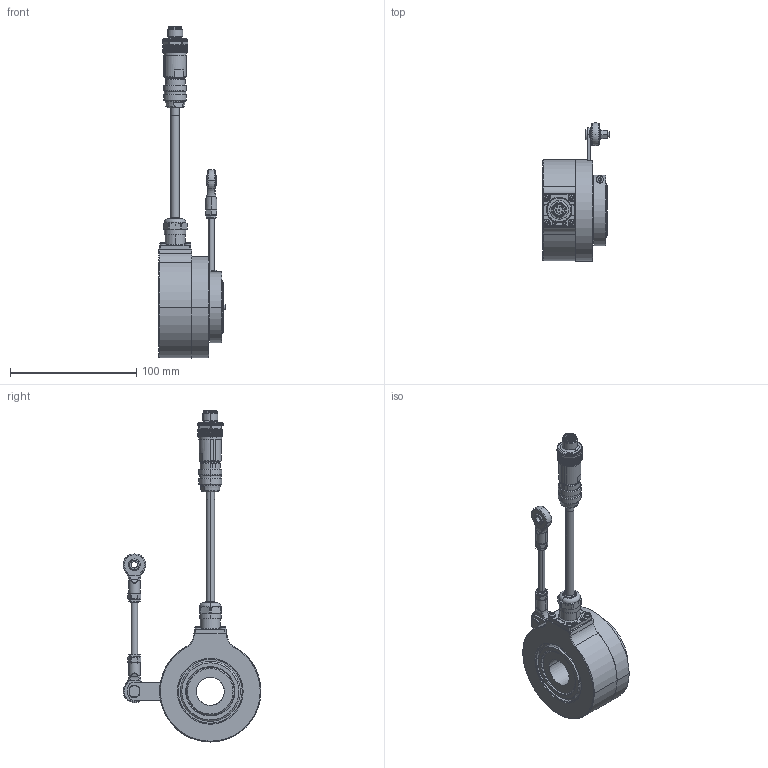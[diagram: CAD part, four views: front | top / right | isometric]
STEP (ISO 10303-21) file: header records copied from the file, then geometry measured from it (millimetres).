
FILE_DESCRIPTION (( 'STEP AP203' ), '1' );
FILE_NAME ('K80I.OXX.XXXXX.XH2686A.6XR12.XXXX.step', '2025-12-09T12:28:10', ( '' ), ( '' ), 'SwSTEP 2.0', 'SolidWorks 2021', '' );
FILE_SCHEMA (( 'CONFIG_CONTROL_DESIGN' ));
Length unit declared in the file: millimetre
Products named in the file (1): K80I.OXX.XXXXX.XH2686A.6XR12.XXXX
Bounding box: 52.7 x 109.11 x 262.56 mm (x, y, z)
Volume: 235981.3 mm3; surface area: 87247.6 mm2
Topology: 26 solids, 26 shells, 1937 faces, 4819 edges, 2944 vertices
Faces by surface type: plane 724, cylinder 619, cone 367, bspline 106, torus 75, sphere 46
Entity records: 61894 total; most frequent: CARTESIAN_POINT 17301, ORIENTED_EDGE 9498, DIRECTION 9195, EDGE_CURVE 4749, AXIS2_PLACEMENT_3D 3654, VERTEX_POINT 2924, EDGE_LOOP 2037, FACE_OUTER_BOUND 1937
